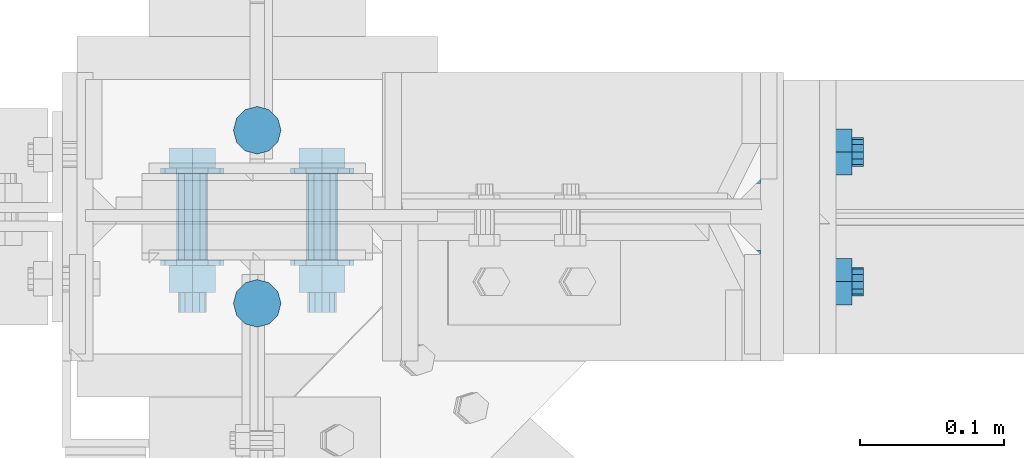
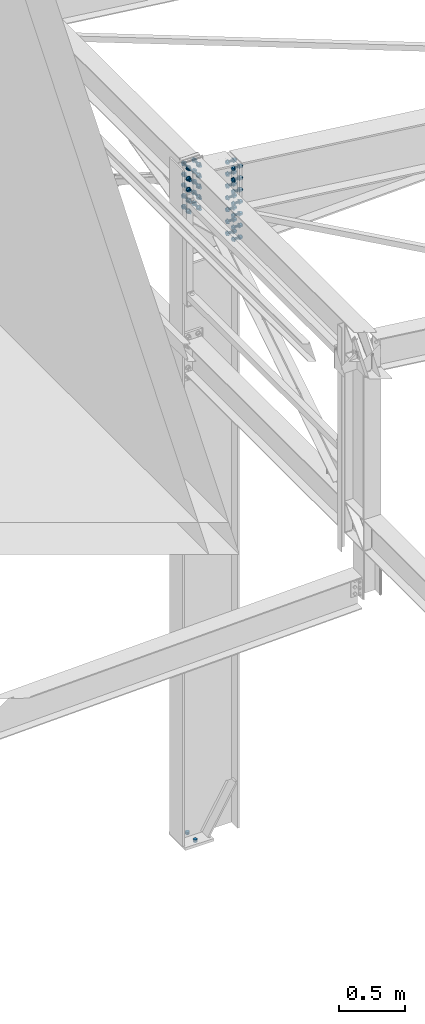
# One storey, part 203 of 3134: 3 mechanical fasteners, 3 elements without a shape of their own.
"""IFC2X3 building model written with IfcOpenShell, lengths in millimetres."""

from ifc_helpers import new_model, si_unit, frame, origin_with_axes, place, context, subcontext, project, spatial, faceted_brep, source, transform, mapped, material, type_object, element, aggregate, save


model = new_model("IFC2X3")

# Units and contexts
model_context = context("Model", 3, precision=1e-05, world=origin_with_axes())
body_context = subcontext(model_context, "Body", "Model", "MODEL_VIEW")
ifc_project = project(units=[si_unit("LENGTHUNIT", "METRE", prefix="MILLI"), si_unit("AREAUNIT", "SQUARE_METRE"), si_unit("VOLUMEUNIT", "CUBIC_METRE"), si_unit("MASSUNIT", "GRAM", prefix="KILO"), si_unit("TIMEUNIT", "SECOND"), si_unit("PLANEANGLEUNIT", "RADIAN"), si_unit("SOLIDANGLEUNIT", "STERADIAN"), si_unit("THERMODYNAMICTEMPERATUREUNIT", "DEGREE_CELSIUS"), si_unit("LUMINOUSINTENSITYUNIT", "LUMEN")], contexts=[model_context])

# Site, building, storey
site_placement = place(None, origin_with_axes())
site = spatial("IfcSite", under=ifc_project, at=site_placement, CompositionType="ELEMENT")
building_placement = place(site_placement, origin_with_axes())
building = spatial("IfcBuilding", under=site, at=building_placement, Name="Undefined", CompositionType="ELEMENT")
storey_placement = place(building_placement, origin_with_axes())
storey = spatial("IfcBuildingStorey", under=building, at=storey_placement, Name="Undefined", CompositionType="ELEMENT", Elevation=0.0)

# Assembly, mechanical fastener
assembly_1_placement = place(storey_placement, origin_with_axes())
assembly_1 = element("IfcElementAssembly", 1, at=assembly_1_placement, inside=storey, Name="IPE450", AssemblyPlace="NOTDEFINED", PredefinedType="RIGID_FRAME")
ifc_material_1 = material(Name="HR10.9")
mechanical_fastener_type = type_object("IfcMechanicalFastenerType", Name="Bolt assembly")
shared_shape_1 = source(origin_with_axes(), body_context, "Body", "Brep", [
    faceted_brep([(18.475208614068, -33.599999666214, 0.0), (9.23760430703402, -33.599999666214, 16.0), (-9.23760430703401, -33.599999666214, 16.0), (-18.475208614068, -33.599999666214, 2.2625605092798e-15), (-9.23760430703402, -33.599999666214, -16.0), (9.237604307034, -33.599999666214, -16.0), (9.237604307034, -19.7000000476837, -16.0), (-9.23760430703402, -19.7000000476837, -16.0), (-18.475208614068, -19.7000000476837, 2.2625605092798e-15), (-9.23760430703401, -19.7000000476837, 16.0), (9.23760430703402, -19.7000000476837, 16.0), (18.475208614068, -19.7000000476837, 0.0), (10.0, -19.7000000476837, 0.0), (8.66025403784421, -19.7000000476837, 5.0000000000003), (4.9999999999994, -19.7000000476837, 8.66025403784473), (-1.03633598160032e-12, -19.7000000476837, 10.0), (-5.00000000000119, -19.7000000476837, 8.6602540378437), (-8.66025403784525, -19.7000000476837, 4.99999999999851), (-10.0, -19.7000000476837, -2.07267196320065e-12), (-8.66025403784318, -19.7000000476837, -5.00000000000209), (-4.99999999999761, -19.7000000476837, -8.66025403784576), (3.09790571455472e-12, -19.7000000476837, -10.0), (5.00000000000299, -19.7000000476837, -8.66025403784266), (8.66025403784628, -19.7000000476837, -4.99999999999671), (8.66025403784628, 55.2999999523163, -4.99999999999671), (5.00000000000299, 55.2999999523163, -8.66025403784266), (3.09790571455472e-12, 55.2999999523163, -10.0), (-4.99999999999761, 55.2999999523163, -8.66025403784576), (-8.66025403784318, 55.2999999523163, -5.00000000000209), (-10.0, 55.2999999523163, -2.07267196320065e-12), (-8.66025403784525, 55.2999999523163, 4.99999999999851), (-5.00000000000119, 55.2999999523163, 8.6602540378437), (-1.03633598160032e-12, 55.2999999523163, 10.0), (4.9999999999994, 55.2999999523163, 8.66025403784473), (8.66025403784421, 55.2999999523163, 5.0000000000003), (10.0, 55.2999999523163, 0.0), (22.0, -19.7000000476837, 0.0), (19.0525588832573, -19.7000000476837, 11.0000000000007), (10.9999999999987, -19.7000000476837, 19.0525588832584), (-2.27993915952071e-12, -19.7000000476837, 22.0), (-11.0000000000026, -19.7000000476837, 19.0525588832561), (-19.0525588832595, -19.7000000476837, 10.9999999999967), (-22.0, -19.7000000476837, -4.55987831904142e-12), (-19.052558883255, -19.7000000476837, -11.0000000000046), (-10.9999999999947, -19.7000000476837, -19.0525588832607), (6.81539257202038e-12, -19.7000000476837, -22.0), (11.0000000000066, -19.7000000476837, -19.0525588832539), (19.0525588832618, -19.7000000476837, -10.9999999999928), (19.0525588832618, -16.0, -10.9999999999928), (11.0000000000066, -16.0, -19.0525588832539), (6.81539257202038e-12, -16.0, -22.0), (-10.9999999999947, -16.0, -19.0525588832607), (-19.052558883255, -16.0, -11.0000000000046), (-22.0, -16.0, -4.55987831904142e-12), (-19.0525588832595, -16.0, 10.9999999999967), (-11.0000000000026, -16.0, 19.0525588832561), (-2.27993915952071e-12, -16.0, 22.0), (10.9999999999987, -16.0, 19.0525588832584), (19.0525588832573, -16.0, 11.0000000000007), (22.0, -16.0, 0.0), (22.0, 25.0, 0.0), (19.0525588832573, 25.0, 11.0000000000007), (10.9999999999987, 25.0, 19.0525588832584), (-2.27993915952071e-12, 25.0, 22.0), (-11.0000000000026, 25.0, 19.0525588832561), (-19.0525588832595, 25.0, 10.9999999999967), (-22.0, 25.0, -4.55987831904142e-12), (-19.052558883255, 25.0, -11.0000000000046), (-10.9999999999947, 25.0, -19.0525588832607), (6.81539257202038e-12, 25.0, -22.0), (11.0000000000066, 25.0, -19.0525588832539), (19.0525588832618, 25.0, -10.9999999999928), (19.0525588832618, 28.7000000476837, -10.9999999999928), (11.0000000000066, 28.7000000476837, -19.0525588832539), (6.81539257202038e-12, 28.7000000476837, -22.0), (-10.9999999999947, 28.7000000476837, -19.0525588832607), (-19.052558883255, 28.7000000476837, -11.0000000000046), (-22.0, 28.7000000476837, -4.55987831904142e-12), (-19.0525588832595, 28.7000000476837, 10.9999999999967), (-11.0000000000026, 28.7000000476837, 19.0525588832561), (-2.27993915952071e-12, 28.7000000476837, 22.0), (10.9999999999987, 28.7000000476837, 19.0525588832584), (19.0525588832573, 28.7000000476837, 11.0000000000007), (22.0, 28.7000000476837, 0.0), (18.475208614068, 28.7000000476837, 0.0), (9.23760430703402, 28.7000000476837, 16.0), (-9.23760430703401, 28.7000000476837, 16.0), (-18.475208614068, 28.7000000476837, 2.2625605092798e-15), (-9.23760430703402, 28.7000000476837, -16.0), (9.237604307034, 28.7000000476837, -16.0), (9.237604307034, 47.2499992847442, -16.0), (-9.23760430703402, 47.2499992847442, -16.0), (-18.475208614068, 47.2499992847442, 2.2625605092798e-15), (-9.23760430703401, 47.2499992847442, 16.0), (9.23760430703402, 47.2499992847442, 16.0), (18.475208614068, 47.2499992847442, 0.0)], [[[0, 1, 2, 3, 4, 5]], [[6, 7, 8, 9, 10, 11]], [[0, 11, 10, 1]], [[1, 10, 9, 2]], [[2, 9, 8, 3]], [[3, 8, 7, 4]], [[4, 7, 6, 5]], [[5, 6, 11, 0]], [[12, 13, 14, 15, 16, 17, 18, 19, 20, 21, 22, 23]], [[24, 25, 26, 27, 28, 29, 30, 31, 32, 33, 34, 35]], [[12, 35, 34, 13]], [[13, 34, 33, 14]], [[14, 33, 32, 15]], [[15, 32, 31, 16]], [[16, 31, 30, 17]], [[17, 30, 29, 18]], [[18, 29, 28, 19]], [[19, 28, 27, 20]], [[20, 27, 26, 21]], [[21, 26, 25, 22]], [[22, 25, 24, 23]], [[23, 24, 35, 12]], [[36, 37, 38, 39, 40, 41, 42, 43, 44, 45, 46, 47]], [[48, 49, 50, 51, 52, 53, 54, 55, 56, 57, 58, 59]], [[36, 59, 58, 37]], [[37, 58, 57, 38]], [[38, 57, 56, 39]], [[39, 56, 55, 40]], [[40, 55, 54, 41]], [[41, 54, 53, 42]], [[42, 53, 52, 43]], [[43, 52, 51, 44]], [[44, 51, 50, 45]], [[45, 50, 49, 46]], [[46, 49, 48, 47]], [[47, 48, 59, 36]], [[60, 61, 62, 63, 64, 65, 66, 67, 68, 69, 70, 71]], [[72, 73, 74, 75, 76, 77, 78, 79, 80, 81, 82, 83]], [[60, 83, 82, 61]], [[61, 82, 81, 62]], [[62, 81, 80, 63]], [[63, 80, 79, 64]], [[64, 79, 78, 65]], [[65, 78, 77, 66]], [[66, 77, 76, 67]], [[67, 76, 75, 68]], [[68, 75, 74, 69]], [[69, 74, 73, 70]], [[70, 73, 72, 71]], [[71, 72, 83, 60]], [[84, 85, 86, 87, 88, 89]], [[90, 91, 92, 93, 94, 95]], [[84, 95, 94, 85]], [[85, 94, 93, 86]], [[86, 93, 92, 87]], [[87, 92, 91, 88]], [[88, 91, 90, 89]], [[89, 90, 95, 84]]]),
    faceted_brep([(11.0, -15.9, 0.0), (9.52627944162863, -15.9, 5.50000000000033), (5.49999999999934, -15.9, 9.5262794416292), (-1.13996957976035e-12, -15.9, 11.0), (-5.50000000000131, -15.9, 9.52627944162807), (-9.52627944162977, -15.9, 5.49999999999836), (-11.0, -15.9, -2.27993915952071e-12), (-9.5262794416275, -15.9, -5.5000000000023), (-5.49999999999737, -15.9, -9.52627944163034), (3.40769628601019e-12, -15.9, -11.0), (5.50000000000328, -15.9, -9.52627944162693), (9.52627944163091, -15.9, -5.49999999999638), (9.52627944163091, 0.0999999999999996, -5.49999999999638), (5.50000000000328, 0.0999999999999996, -9.52627944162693), (3.40769628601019e-12, 0.0999999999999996, -11.0), (-5.49999999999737, 0.0999999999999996, -9.52627944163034), (-9.5262794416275, 0.0999999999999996, -5.5000000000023), (-11.0, 0.0999999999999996, -2.27993915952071e-12), (-9.52627944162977, 0.0999999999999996, 5.49999999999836), (-5.50000000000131, 0.0999999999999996, 9.52627944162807), (-1.13996957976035e-12, 0.0999999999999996, 11.0), (5.49999999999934, 0.0999999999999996, 9.5262794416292), (9.52627944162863, 0.0999999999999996, 5.50000000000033), (11.0, 0.0999999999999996, 0.0), (11.0, -0.1, 0.0), (9.52627944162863, -0.1, 5.50000000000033), (5.49999999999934, -0.1, 9.5262794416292), (-1.13996957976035e-12, -0.1, 11.0), (-5.50000000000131, -0.1, 9.52627944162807), (-9.52627944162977, -0.1, 5.49999999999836), (-11.0, -0.1, -2.27993915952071e-12), (-9.5262794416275, -0.1, -5.5000000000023), (-5.49999999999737, -0.1, -9.52627944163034), (3.40769628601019e-12, -0.1, -11.0), (5.50000000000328, -0.1, -9.52627944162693), (9.52627944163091, -0.1, -5.49999999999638), (9.52627944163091, 25.0, -5.49999999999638), (5.50000000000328, 25.0, -9.52627944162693), (3.40769628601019e-12, 25.0, -11.0), (-5.49999999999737, 25.0, -9.52627944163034), (-9.5262794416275, 25.0, -5.5000000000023), (-11.0, 25.0, -2.27993915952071e-12), (-9.52627944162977, 25.0, 5.49999999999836), (-5.50000000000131, 25.0, 9.52627944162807), (-1.13996957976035e-12, 25.0, 11.0), (5.49999999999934, 25.0, 9.5262794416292), (9.52627944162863, 25.0, 5.50000000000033), (11.0, 25.0, 0.0)], [[[0, 1, 2, 3, 4, 5, 6, 7, 8, 9, 10, 11]], [[12, 13, 14, 15, 16, 17, 18, 19, 20, 21, 22, 23]], [[0, 23, 22, 1]], [[1, 22, 21, 2]], [[2, 21, 20, 3]], [[3, 20, 19, 4]], [[4, 19, 18, 5]], [[5, 18, 17, 6]], [[6, 17, 16, 7]], [[7, 16, 15, 8]], [[8, 15, 14, 9]], [[9, 14, 13, 10]], [[10, 13, 12, 11]], [[11, 12, 23, 0]], [[24, 25, 26, 27, 28, 29, 30, 31, 32, 33, 34, 35]], [[36, 37, 38, 39, 40, 41, 42, 43, 44, 45, 46, 47]], [[24, 47, 46, 25]], [[25, 46, 45, 26]], [[26, 45, 44, 27]], [[27, 44, 43, 28]], [[28, 43, 42, 29]], [[29, 42, 41, 30]], [[30, 41, 40, 31]], [[31, 40, 39, 32]], [[32, 39, 38, 33]], [[33, 38, 37, 34]], [[34, 37, 36, 35]], [[35, 36, 47, 24]]]),
])
mechanical_fastener_1_placement = place(assembly_1_placement, frame((21215.0, 40250.0, 5711.36541521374), z_axis=(0.0, -1.0, 0.0), x_axis=(0.0, 0.0, -1.0)))
mechanical_fastener_1 = element("IfcMechanicalFastener", 2, at=mechanical_fastener_1_placement, type_object=mechanical_fastener_type, material=ifc_material_1, Name="Bolt assembly", NominalDiameter=20.0, NominalLength=75.0, context=body_context, shape_type="MappedRepresentation", body=[
    mapped(shared_shape_1, transform((0.0, 0.0, -45.0))),
    mapped(shared_shape_1, transform((0.0, 0.0, 45.0))),
    mapped(shared_shape_1, transform((110.0, 0.0, -45.0))),
    mapped(shared_shape_1, transform((110.0, 0.0, 45.0))),
    mapped(shared_shape_1, transform((220.0, 0.0, -45.0))),
    mapped(shared_shape_1, transform((220.0, 0.0, 45.0))),
    mapped(shared_shape_1, transform((330.0, 0.0, -45.0))),
    mapped(shared_shape_1, transform((330.0, 0.0, 45.0))),
    mapped(shared_shape_1, transform((440.0, 0.0, -45.0))),
    mapped(shared_shape_1, transform((440.0, 0.0, 45.0))),
    mapped(shared_shape_1, transform((550.0, 0.0, -45.0))),
    mapped(shared_shape_1, transform((550.0, 0.0, 45.0))),
    mapped(shared_shape_1, transform((660.0, 0.0, -45.0))),
    mapped(shared_shape_1, transform((660.0, 0.0, 45.0))),
])
aggregate(assembly_1, [mechanical_fastener_1])

assembly_2_placement = place(storey_placement, origin_with_axes())
assembly_2 = element("IfcElementAssembly", 3, at=assembly_2_placement, inside=storey, Name="300", AssemblyPlace="NOTDEFINED", PredefinedType="RIGID_FRAME")
shared_shape_2 = source(origin_with_axes(), body_context, "Body", "Brep", [
    faceted_brep([(18.475208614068, -47.6999994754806, 0.0), (9.23760430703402, -47.6999994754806, 16.0), (-9.23760430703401, -47.6999994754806, 16.0), (-18.475208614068, -47.6999994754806, 2.2625605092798e-15), (-9.23760430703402, -47.6999994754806, -16.0), (9.237604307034, -47.6999994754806, -16.0), (9.237604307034, -33.7999998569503, -16.0), (-9.23760430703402, -33.7999998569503, -16.0), (-18.475208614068, -33.7999998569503, 2.2625605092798e-15), (-9.23760430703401, -33.7999998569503, 16.0), (9.23760430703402, -33.7999998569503, 16.0), (18.475208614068, -33.7999998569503, 0.0), (10.0, -33.7999998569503, 0.0), (8.66025403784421, -33.7999998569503, 5.0000000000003), (4.9999999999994, -33.7999998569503, 8.66025403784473), (-1.03633598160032e-12, -33.7999998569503, 10.0), (-5.00000000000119, -33.7999998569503, 8.6602540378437), (-8.66025403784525, -33.7999998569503, 4.99999999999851), (-10.0, -33.7999998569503, -2.07267196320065e-12), (-8.66025403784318, -33.7999998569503, -5.00000000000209), (-4.99999999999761, -33.7999998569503, -8.66025403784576), (3.09790571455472e-12, -33.7999998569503, -10.0), (5.00000000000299, -33.7999998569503, -8.66025403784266), (8.66025403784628, -33.7999998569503, -4.99999999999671), (8.66025403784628, 66.2000001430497, -4.99999999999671), (5.00000000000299, 66.2000001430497, -8.66025403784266), (3.09790571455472e-12, 66.2000001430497, -10.0), (-4.99999999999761, 66.2000001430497, -8.66025403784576), (-8.66025403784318, 66.2000001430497, -5.00000000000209), (-10.0, 66.2000001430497, -2.07267196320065e-12), (-8.66025403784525, 66.2000001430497, 4.99999999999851), (-5.00000000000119, 66.2000001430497, 8.6602540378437), (-1.03633598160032e-12, 66.2000001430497, 10.0), (4.9999999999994, 66.2000001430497, 8.66025403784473), (8.66025403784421, 66.2000001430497, 5.0000000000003), (10.0, 66.2000001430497, 0.0), (22.0, -33.7999998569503, 0.0), (19.0525588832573, -33.7999998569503, 11.0000000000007), (10.9999999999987, -33.7999998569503, 19.0525588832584), (-2.27993915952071e-12, -33.7999998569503, 22.0), (-11.0000000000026, -33.7999998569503, 19.0525588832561), (-19.0525588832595, -33.7999998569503, 10.9999999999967), (-22.0, -33.7999998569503, -4.55987831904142e-12), (-19.052558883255, -33.7999998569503, -11.0000000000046), (-10.9999999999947, -33.7999998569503, -19.0525588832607), (6.81539257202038e-12, -33.7999998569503, -22.0), (11.0000000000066, -33.7999998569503, -19.0525588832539), (19.0525588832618, -33.7999998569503, -10.9999999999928), (19.0525588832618, -30.0999998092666, -10.9999999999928), (11.0000000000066, -30.0999998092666, -19.0525588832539), (6.81539257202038e-12, -30.0999998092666, -22.0), (-10.9999999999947, -30.0999998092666, -19.0525588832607), (-19.052558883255, -30.0999998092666, -11.0000000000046), (-22.0, -30.0999998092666, -4.55987831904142e-12), (-19.0525588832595, -30.0999998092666, 10.9999999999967), (-11.0000000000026, -30.0999998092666, 19.0525588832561), (-2.27993915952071e-12, -30.0999998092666, 22.0), (10.9999999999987, -30.0999998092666, 19.0525588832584), (19.0525588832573, -30.0999998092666, 11.0000000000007), (22.0, -30.0999998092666, 0.0), (22.0, 30.0999999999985, 0.0), (19.0525588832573, 30.0999999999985, 11.0000000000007), (10.9999999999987, 30.0999999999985, 19.0525588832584), (-2.27993915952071e-12, 30.0999999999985, 22.0), (-11.0000000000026, 30.0999999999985, 19.0525588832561), (-19.0525588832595, 30.0999999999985, 10.9999999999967), (-22.0, 30.0999999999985, -4.55987831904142e-12), (-19.052558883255, 30.0999999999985, -11.0000000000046), (-10.9999999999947, 30.0999999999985, -19.0525588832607), (6.81539257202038e-12, 30.0999999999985, -22.0), (11.0000000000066, 30.0999999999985, -19.0525588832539), (19.0525588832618, 30.0999999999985, -10.9999999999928), (19.0525588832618, 33.8000000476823, -10.9999999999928), (11.0000000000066, 33.8000000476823, -19.0525588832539), (6.81539257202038e-12, 33.8000000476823, -22.0), (-10.9999999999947, 33.8000000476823, -19.0525588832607), (-19.052558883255, 33.8000000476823, -11.0000000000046), (-22.0, 33.8000000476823, -4.55987831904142e-12), (-19.0525588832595, 33.8000000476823, 10.9999999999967), (-11.0000000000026, 33.8000000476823, 19.0525588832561), (-2.27993915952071e-12, 33.8000000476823, 22.0), (10.9999999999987, 33.8000000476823, 19.0525588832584), (19.0525588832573, 33.8000000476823, 11.0000000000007), (22.0, 33.8000000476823, 0.0), (18.475208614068, 33.8000000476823, 0.0), (9.23760430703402, 33.8000000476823, 16.0), (-9.23760430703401, 33.8000000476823, 16.0), (-18.475208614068, 33.8000000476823, 2.2625605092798e-15), (-9.23760430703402, 33.8000000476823, -16.0), (9.237604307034, 33.8000000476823, -16.0), (9.237604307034, 52.3499992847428, -16.0), (-9.23760430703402, 52.3499992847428, -16.0), (-18.475208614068, 52.3499992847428, 2.2625605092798e-15), (-9.23760430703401, 52.3499992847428, 16.0), (9.23760430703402, 52.3499992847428, 16.0), (18.475208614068, 52.3499992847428, 0.0)], [[[0, 1, 2, 3, 4, 5]], [[6, 7, 8, 9, 10, 11]], [[0, 11, 10, 1]], [[1, 10, 9, 2]], [[2, 9, 8, 3]], [[3, 8, 7, 4]], [[4, 7, 6, 5]], [[5, 6, 11, 0]], [[12, 13, 14, 15, 16, 17, 18, 19, 20, 21, 22, 23]], [[24, 25, 26, 27, 28, 29, 30, 31, 32, 33, 34, 35]], [[12, 35, 34, 13]], [[13, 34, 33, 14]], [[14, 33, 32, 15]], [[15, 32, 31, 16]], [[16, 31, 30, 17]], [[17, 30, 29, 18]], [[18, 29, 28, 19]], [[19, 28, 27, 20]], [[20, 27, 26, 21]], [[21, 26, 25, 22]], [[22, 25, 24, 23]], [[23, 24, 35, 12]], [[36, 37, 38, 39, 40, 41, 42, 43, 44, 45, 46, 47]], [[48, 49, 50, 51, 52, 53, 54, 55, 56, 57, 58, 59]], [[36, 59, 58, 37]], [[37, 58, 57, 38]], [[38, 57, 56, 39]], [[39, 56, 55, 40]], [[40, 55, 54, 41]], [[41, 54, 53, 42]], [[42, 53, 52, 43]], [[43, 52, 51, 44]], [[44, 51, 50, 45]], [[45, 50, 49, 46]], [[46, 49, 48, 47]], [[47, 48, 59, 36]], [[60, 61, 62, 63, 64, 65, 66, 67, 68, 69, 70, 71]], [[72, 73, 74, 75, 76, 77, 78, 79, 80, 81, 82, 83]], [[60, 83, 82, 61]], [[61, 82, 81, 62]], [[62, 81, 80, 63]], [[63, 80, 79, 64]], [[64, 79, 78, 65]], [[65, 78, 77, 66]], [[66, 77, 76, 67]], [[67, 76, 75, 68]], [[68, 75, 74, 69]], [[69, 74, 73, 70]], [[70, 73, 72, 71]], [[71, 72, 83, 60]], [[84, 85, 86, 87, 88, 89]], [[90, 91, 92, 93, 94, 95]], [[84, 95, 94, 85]], [[85, 94, 93, 86]], [[86, 93, 92, 87]], [[87, 92, 91, 88]], [[88, 91, 90, 89]], [[89, 90, 95, 84]]]),
    faceted_brep([(11.0, -5.09999980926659, 0.0), (9.52627944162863, -5.09999980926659, 5.50000000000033), (5.49999999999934, -5.09999980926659, 9.5262794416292), (-1.13996957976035e-12, -5.09999980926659, 11.0), (-5.50000000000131, -5.09999980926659, 9.52627944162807), (-9.52627944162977, -5.09999980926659, 5.49999999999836), (-11.0, -5.09999980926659, -2.27993915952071e-12), (-9.5262794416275, -5.09999980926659, -5.5000000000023), (-5.49999999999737, -5.09999980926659, -9.52627944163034), (3.40769628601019e-12, -5.09999980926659, -11.0), (5.50000000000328, -5.09999980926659, -9.52627944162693), (9.52627944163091, -5.09999980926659, -5.49999999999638), (9.52627944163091, 5.09999999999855, -5.49999999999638), (5.50000000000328, 5.09999999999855, -9.52627944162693), (3.40769628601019e-12, 5.09999999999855, -11.0), (-5.49999999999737, 5.09999999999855, -9.52627944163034), (-9.5262794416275, 5.09999999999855, -5.5000000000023), (-11.0, 5.09999999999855, -2.27993915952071e-12), (-9.52627944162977, 5.09999999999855, 5.49999999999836), (-5.50000000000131, 5.09999999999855, 9.52627944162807), (-1.13996957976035e-12, 5.09999999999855, 11.0), (5.49999999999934, 5.09999999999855, 9.5262794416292), (9.52627944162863, 5.09999999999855, 5.50000000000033), (11.0, 5.09999999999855, 0.0), (11.0, -29.9999998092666, 0.0), (9.52627944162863, -29.9999998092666, 5.50000000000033), (5.49999999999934, -29.9999998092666, 9.5262794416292), (-1.13996957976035e-12, -29.9999998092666, 11.0), (-5.50000000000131, -29.9999998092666, 9.52627944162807), (-9.52627944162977, -29.9999998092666, 5.49999999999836), (-11.0, -29.9999998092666, -2.27993915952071e-12), (-9.5262794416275, -29.9999998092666, -5.5000000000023), (-5.49999999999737, -29.9999998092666, -9.52627944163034), (3.40769628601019e-12, -29.9999998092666, -11.0), (5.50000000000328, -29.9999998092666, -9.52627944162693), (9.52627944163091, -29.9999998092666, -5.49999999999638), (9.52627944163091, -4.99999980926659, -5.49999999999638), (5.50000000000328, -4.99999980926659, -9.52627944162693), (3.40769628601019e-12, -4.99999980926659, -11.0), (-5.49999999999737, -4.99999980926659, -9.52627944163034), (-9.5262794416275, -4.99999980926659, -5.5000000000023), (-11.0, -4.99999980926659, -2.27993915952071e-12), (-9.52627944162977, -4.99999980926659, 5.49999999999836), (-5.50000000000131, -4.99999980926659, 9.52627944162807), (-1.13996957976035e-12, -4.99999980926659, 11.0), (5.49999999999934, -4.99999980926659, 9.5262794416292), (9.52627944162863, -4.99999980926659, 5.50000000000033), (11.0, -4.99999980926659, 0.0), (11.0, 4.99999999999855, 0.0), (9.52627944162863, 4.99999999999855, 5.50000000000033), (5.49999999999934, 4.99999999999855, 9.5262794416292), (-1.13996957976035e-12, 4.99999999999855, 11.0), (-5.50000000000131, 4.99999999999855, 9.52627944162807), (-9.52627944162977, 4.99999999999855, 5.49999999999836), (-11.0, 4.99999999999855, -2.27993915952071e-12), (-9.5262794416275, 4.99999999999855, -5.5000000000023), (-5.49999999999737, 4.99999999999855, -9.52627944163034), (3.40769628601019e-12, 4.99999999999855, -11.0), (5.50000000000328, 4.99999999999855, -9.52627944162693), (9.52627944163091, 4.99999999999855, -5.49999999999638), (9.52627944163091, 30.0999999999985, -5.49999999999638), (5.50000000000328, 30.0999999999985, -9.52627944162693), (3.40769628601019e-12, 30.0999999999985, -11.0), (-5.49999999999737, 30.0999999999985, -9.52627944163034), (-9.5262794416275, 30.0999999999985, -5.5000000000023), (-11.0, 30.0999999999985, -2.27993915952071e-12), (-9.52627944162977, 30.0999999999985, 5.49999999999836), (-5.50000000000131, 30.0999999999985, 9.52627944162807), (-1.13996957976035e-12, 30.0999999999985, 11.0), (5.49999999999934, 30.0999999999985, 9.5262794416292), (9.52627944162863, 30.0999999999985, 5.50000000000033), (11.0, 30.0999999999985, 0.0)], [[[0, 1, 2, 3, 4, 5, 6, 7, 8, 9, 10, 11]], [[12, 13, 14, 15, 16, 17, 18, 19, 20, 21, 22, 23]], [[0, 23, 22, 1]], [[1, 22, 21, 2]], [[2, 21, 20, 3]], [[3, 20, 19, 4]], [[4, 19, 18, 5]], [[5, 18, 17, 6]], [[6, 17, 16, 7]], [[7, 16, 15, 8]], [[8, 15, 14, 9]], [[9, 14, 13, 10]], [[10, 13, 12, 11]], [[11, 12, 23, 0]], [[24, 25, 26, 27, 28, 29, 30, 31, 32, 33, 34, 35]], [[36, 37, 38, 39, 40, 41, 42, 43, 44, 45, 46, 47]], [[24, 47, 46, 25]], [[25, 46, 45, 26]], [[26, 45, 44, 27]], [[27, 44, 43, 28]], [[28, 43, 42, 29]], [[29, 42, 41, 30]], [[30, 41, 40, 31]], [[31, 40, 39, 32]], [[32, 39, 38, 33]], [[33, 38, 37, 34]], [[34, 37, 36, 35]], [[35, 36, 47, 24]], [[48, 49, 50, 51, 52, 53, 54, 55, 56, 57, 58, 59]], [[60, 61, 62, 63, 64, 65, 66, 67, 68, 69, 70, 71]], [[48, 71, 70, 49]], [[49, 70, 69, 50]], [[50, 69, 68, 51]], [[51, 68, 67, 52]], [[52, 67, 66, 53]], [[53, 66, 65, 54]], [[54, 65, 64, 55]], [[55, 64, 63, 56]], [[56, 63, 62, 57]], [[57, 62, 61, 58]], [[58, 61, 60, 59]], [[59, 60, 71, 48]]]),
])
mechanical_fastener_2_placement = place(assembly_2_placement, frame((20850.0, 40250.0000000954, 5841.5), z_axis=(-1.0, 0.0, 0.0), x_axis=(0.0, 0.0, -1.0)))
mechanical_fastener_2 = element("IfcMechanicalFastener", 4, at=mechanical_fastener_2_placement, type_object=mechanical_fastener_type, material=ifc_material_1, Name="Bolt assembly", NominalDiameter=20.0, NominalLength=100.0, context=body_context, shape_type="MappedRepresentation", body=[
    mapped(shared_shape_2, transform((0.0, 0.0, -45.0))),
    mapped(shared_shape_2, transform((100.0, 0.0, -45.0))),
    mapped(shared_shape_2, transform((200.0, 0.0, -45.0))),
    mapped(shared_shape_2, transform((300.0, 0.0, -45.0))),
    mapped(shared_shape_2, transform((400.0, 0.0, -45.0))),
    mapped(shared_shape_2, transform((0.0, 0.0, 45.0))),
    mapped(shared_shape_2, transform((100.0, 0.0, 45.0))),
    mapped(shared_shape_2, transform((200.0, 0.0, 45.0))),
    mapped(shared_shape_2, transform((300.0, 0.0, 45.0))),
    mapped(shared_shape_2, transform((400.0, 0.0, 45.0))),
])
aggregate(assembly_2, [mechanical_fastener_2])

assembly_3_placement = place(storey_placement, origin_with_axes())
assembly_3 = element("IfcElementAssembly", 5, at=assembly_3_placement, inside=storey, Name="IPE500", AssemblyPlace="NOTDEFINED", PredefinedType="RIGID_FRAME")
ifc_material_2 = material(Name="8.8")
shared_shape_3 = source(origin_with_axes(), body_context, "Body", "Brep", [
    faceted_brep([(16.5, -25.0, 0.0), (14.289419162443, -25.0, 8.25000000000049), (8.24999999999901, -25.0, 14.2894191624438), (-1.70995436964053e-12, -25.0, 16.5), (-8.25000000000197, -25.0, 14.2894191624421), (-14.2894191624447, -25.0, 8.24999999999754), (-16.5, -25.0, -3.41990873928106e-12), (-14.2894191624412, -25.0, -8.25000000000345), (-8.24999999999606, -25.0, -14.2894191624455), (5.11154442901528e-12, -25.0, -16.5), (8.25000000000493, -25.0, -14.2894191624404), (14.2894191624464, -25.0, -8.24999999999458), (14.2894191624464, 0.1, -8.24999999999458), (8.25000000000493, 0.1, -14.2894191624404), (5.11154442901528e-12, 0.1, -16.5), (-8.24999999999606, 0.1, -14.2894191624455), (-14.2894191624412, 0.1, -8.25000000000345), (-16.5, 0.1, -3.41990873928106e-12), (-14.2894191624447, 0.1, 8.24999999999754), (-8.25000000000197, 0.1, 14.2894191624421), (-1.70995436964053e-12, 0.1, 16.5), (8.24999999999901, 0.1, 14.2894191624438), (14.289419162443, 0.1, 8.25000000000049), (16.5, 0.1, 0.0)], [[[0, 1, 2, 3, 4, 5, 6, 7, 8, 9, 10, 11]], [[12, 13, 14, 15, 16, 17, 18, 19, 20, 21, 22, 23]], [[0, 23, 22, 1]], [[1, 22, 21, 2]], [[2, 21, 20, 3]], [[3, 20, 19, 4]], [[4, 19, 18, 5]], [[5, 18, 17, 6]], [[6, 17, 16, 7]], [[7, 16, 15, 8]], [[8, 15, 14, 9]], [[9, 14, 13, 10]], [[10, 13, 12, 11]], [[11, 12, 23, 0]]]),
])
mechanical_fastener_3_placement = place(assembly_3_placement, frame((21330.0, 40250.0000000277, -375.0), z_axis=(0.0, 1.0, 0.0), x_axis=(-1.0, 0.0, 0.0)))
mechanical_fastener_3 = element("IfcMechanicalFastener", 6, at=mechanical_fastener_3_placement, type_object=mechanical_fastener_type, material=ifc_material_2, Name="Bolt assembly", NominalDiameter=30.0, NominalLength=25.0, context=body_context, shape_type="MappedRepresentation", body=[
    mapped(shared_shape_3, transform((480.0, 0.0, -60.0))),
    mapped(shared_shape_3, transform((480.0, 0.0, 60.0))),
])
aggregate(assembly_3, [mechanical_fastener_3])

save(model, "model.ifc")
